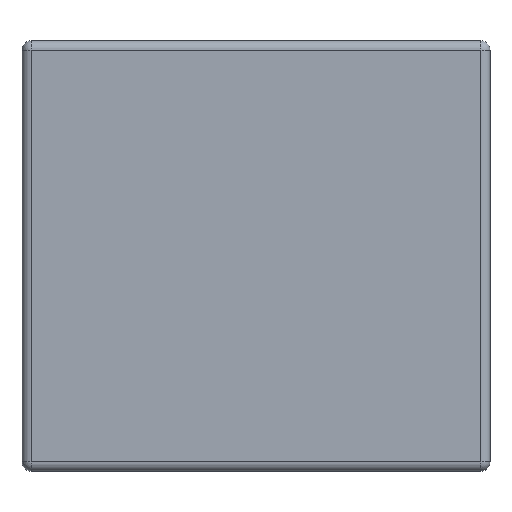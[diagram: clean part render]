
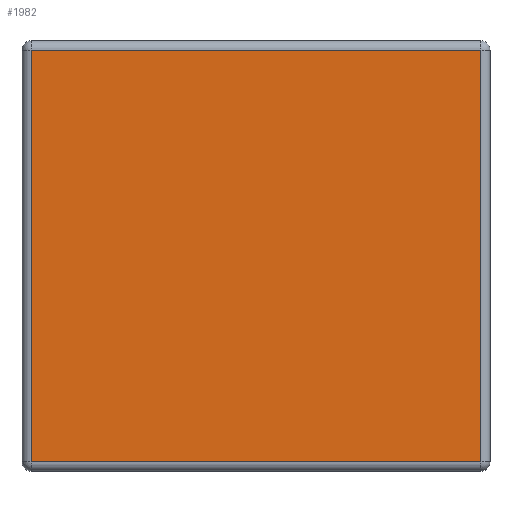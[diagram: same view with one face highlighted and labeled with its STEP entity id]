
A CAD part, front view. The second image highlights one B-rep face of the part: STEP entity #1982.
In plain terms, the highlighted planar face has unit normal (0, -1, 0).
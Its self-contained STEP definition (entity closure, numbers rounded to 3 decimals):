
#177=DIRECTION('',(0.,0.,1.));
#178=VECTOR('',#177,22.);
#179=CARTESIAN_POINT('',(-12.,0.,-11.));
#180=LINE('',#179,#178);
#871=DIRECTION('',(-1.,0.,0.));
#872=VECTOR('',#871,24.);
#873=CARTESIAN_POINT('',(12.,0.,-11.));
#874=LINE('',#873,#872);
#885=DIRECTION('',(0.,0.,-1.));
#886=VECTOR('',#885,22.);
#887=CARTESIAN_POINT('',(12.,0.,11.));
#888=LINE('',#887,#886);
#968=DIRECTION('',(1.,0.,0.));
#969=VECTOR('',#968,24.);
#970=CARTESIAN_POINT('',(-12.,0.,11.));
#971=LINE('',#970,#969);
#1047=CARTESIAN_POINT('',(-12.,0.,11.));
#1048=CARTESIAN_POINT('',(12.,0.,11.));
#1049=VERTEX_POINT('',#1047);
#1050=VERTEX_POINT('',#1048);
#1119=CARTESIAN_POINT('',(12.,0.,-11.));
#1120=VERTEX_POINT('',#1119);
#1121=CARTESIAN_POINT('',(-12.,0.,-11.));
#1122=VERTEX_POINT('',#1121);
#1969=CARTESIAN_POINT('',(0.,0.,0.));
#1970=DIRECTION('',(0.,1.,0.));
#1971=DIRECTION('',(0.,0.,1.));
#1972=AXIS2_PLACEMENT_3D('',#1969,#1970,#1971);
#1973=PLANE('',#1972);
#1975=ORIENTED_EDGE('',*,*,#1974,.T.);
#1976=ORIENTED_EDGE('',*,*,#1961,.T.);
#1977=ORIENTED_EDGE('',*,*,#1352,.T.);
#1979=ORIENTED_EDGE('',*,*,#1978,.T.);
#1980=EDGE_LOOP('',(#1975,#1976,#1977,#1979));
#1981=FACE_OUTER_BOUND('',#1980,.F.);
#1982=ADVANCED_FACE('',(#1981),#1973,.F.);
#1352=EDGE_CURVE('',#1122,#1049,#180,.T.);
#1961=EDGE_CURVE('',#1120,#1122,#874,.T.);
#1974=EDGE_CURVE('',#1050,#1120,#888,.T.);
#1978=EDGE_CURVE('',#1049,#1050,#971,.T.);
